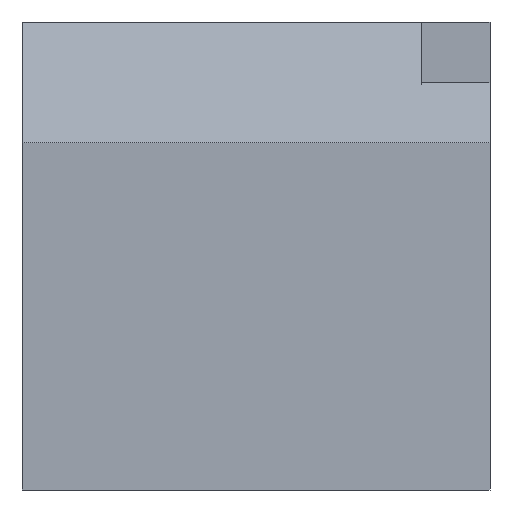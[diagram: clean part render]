
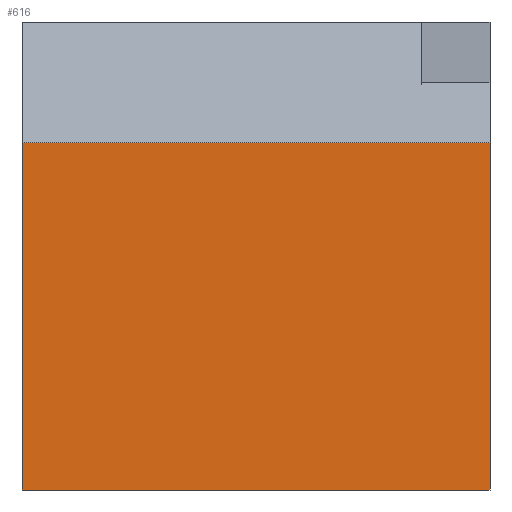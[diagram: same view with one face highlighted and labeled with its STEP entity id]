
A CAD part, left-side view. The second image highlights one B-rep face of the part: STEP entity #616.
In plain terms, the highlighted planar face has unit normal (-1, 0, 0).
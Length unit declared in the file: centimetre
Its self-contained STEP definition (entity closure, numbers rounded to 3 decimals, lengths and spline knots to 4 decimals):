
#5 = FACE_OUTER_BOUND ( 'NONE', #142, .T. ) ;
#22 = CARTESIAN_POINT ( 'NONE',  ( 0., 0., 1000. ) ) ;
#27 = CARTESIAN_POINT ( 'NONE',  ( 0., 0., 0. ) ) ;
#67 = DIRECTION ( 'NONE',  ( 0., 0., -1. ) ) ;
#121 = CARTESIAN_POINT ( 'NONE',  ( 0., 1000., 0. ) ) ;
#123 = DIRECTION ( 'NONE',  ( 0., 1., 0. ) ) ;
#142 = EDGE_LOOP ( 'NONE', ( #155, #466, #172, #300 ) ) ;
#155 = ORIENTED_EDGE ( 'NONE', *, *, #476, .F. ) ;
#160 = DIRECTION ( 'NONE',  ( 0., 0., -1. ) ) ;
#172 = ORIENTED_EDGE ( 'NONE', *, *, #347, .T. ) ;
#173 = CARTESIAN_POINT ( 'NONE',  ( 0., 1000., 741.9399 ) ) ;
#181 = VECTOR ( 'NONE', #160, 100. ) ;
#185 = CARTESIAN_POINT ( 'NONE',  ( 0., 1000., 0. ) ) ;
#198 = CARTESIAN_POINT ( 'NONE',  ( 0., 1000., 741.9399 ) ) ;
#230 = DIRECTION ( 'NONE',  ( 0., -1., 0. ) ) ;
#235 = LINE ( 'NONE', #185, #241 ) ;
#241 = VECTOR ( 'NONE', #230, 100. ) ;
#276 = CARTESIAN_POINT ( 'NONE',  ( 0., 1000., 1000. ) ) ;
#285 = LINE ( 'NONE', #276, #181 ) ;
#300 = ORIENTED_EDGE ( 'NONE', *, *, #606, .T. ) ;
#346 = AXIS2_PLACEMENT_3D ( 'NONE', #598, #528, #67 ) ;
#347 = EDGE_CURVE ( 'NONE', #440, #711, #285, .T. ) ;
#355 = PLANE ( 'NONE',  #346 ) ;
#387 = VERTEX_POINT ( 'NONE', #27 ) ;
#427 = LINE ( 'NONE', #22, #600 ) ;
#440 = VERTEX_POINT ( 'NONE', #198 ) ;
#466 = ORIENTED_EDGE ( 'NONE', *, *, #664, .T. ) ;
#476 = EDGE_CURVE ( 'NONE', #568, #387, #427, .T. ) ;
#528 = DIRECTION ( 'NONE',  ( 1., 0., 0. ) ) ;
#537 = LINE ( 'NONE', #173, #640 ) ;
#568 = VERTEX_POINT ( 'NONE', #693 ) ;
#598 = CARTESIAN_POINT ( 'NONE',  ( 0., 1000., 1000. ) ) ;
#600 = VECTOR ( 'NONE', #632, 100. ) ;
#606 = EDGE_CURVE ( 'NONE', #711, #387, #235, .T. ) ;
#616 = ADVANCED_FACE ( 'NONE', ( #5 ), #355, .F. ) ;
#632 = DIRECTION ( 'NONE',  ( 0., 0., -1. ) ) ;
#640 = VECTOR ( 'NONE', #123, 100. ) ;
#664 = EDGE_CURVE ( 'NONE', #568, #440, #537, .T. ) ;
#693 = CARTESIAN_POINT ( 'NONE',  ( 0., 0., 741.9399 ) ) ;
#711 = VERTEX_POINT ( 'NONE', #121 ) ;
